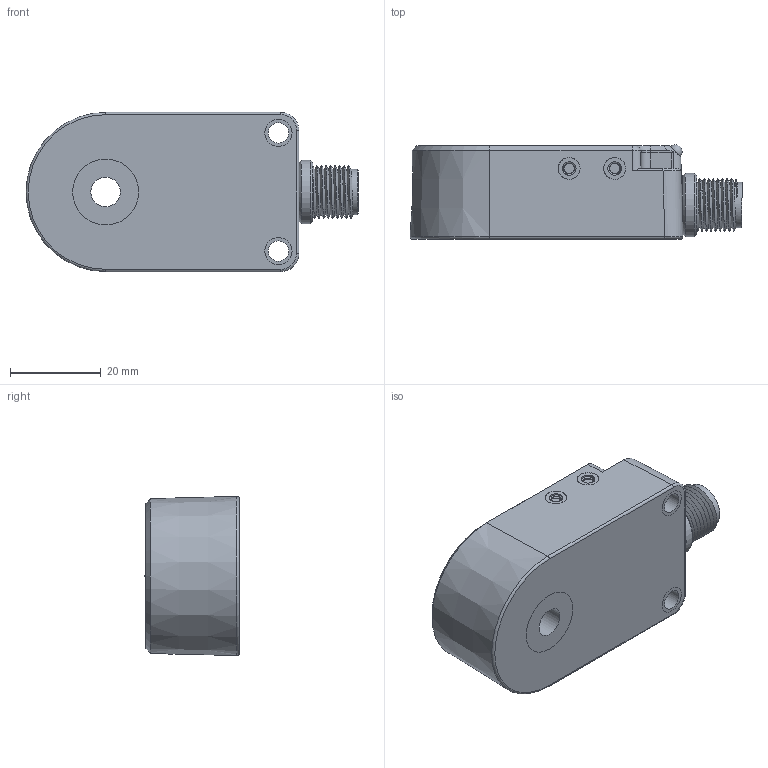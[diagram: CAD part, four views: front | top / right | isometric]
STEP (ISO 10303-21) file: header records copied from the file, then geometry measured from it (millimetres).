
FILE_DESCRIPTION(/* description */ (''),/* implementation_level */ '2;1');
FILE_NAME(/* name */ 'F:\HUAYIFENG\02)HUAYIFENG_3D_MODE\新环型\newhuanxing\3D_PC\PC06-C2.stp',/* time_stamp */ '2019-06-19T19:37:10+08:00',/* author */ ('fengjiarun'),/* organization */ (''),/* preprocessor_version */ 'ST-DEVELOPER v16.5',/* originating_system */ 'Autodesk Inventor 2017',/* authorisation */ '');
FILE_SCHEMA (('AUTOMOTIVE_DESIGN { 1 0 10303 214 3 1 1 }'));
Length unit declared in the file: millimetre
Products named in the file (1): 零件7
Bounding box: 72.99 x 20.73 x 35 mm (x, y, z)
Volume: 37532.3 mm3; surface area: 10203.6 mm2
Topology: 1 solids, 2 shells, 210 faces, 506 edges, 323 vertices
Faces by surface type: plane 70, cylinder 62, bspline 53, torus 18, cone 5, sphere 2
Full cylindrical faces by diameter (mm): 1.5 x4, 3 x3, 3.05 x1, 4.5 x2, 4.8 x2, 6.5 x1, 8 x1, 10 x1, 12.1 x1, 14 x1, 14.5 x1
Entity records: 11968 total; most frequent: CARTESIAN_POINT 7290, ORIENTED_EDGE 924, DIRECTION 843, EDGE_CURVE 462, AXIS2_PLACEMENT_3D 341, VERTEX_POINT 304, EDGE_LOOP 262, STYLED_ITEM 209
